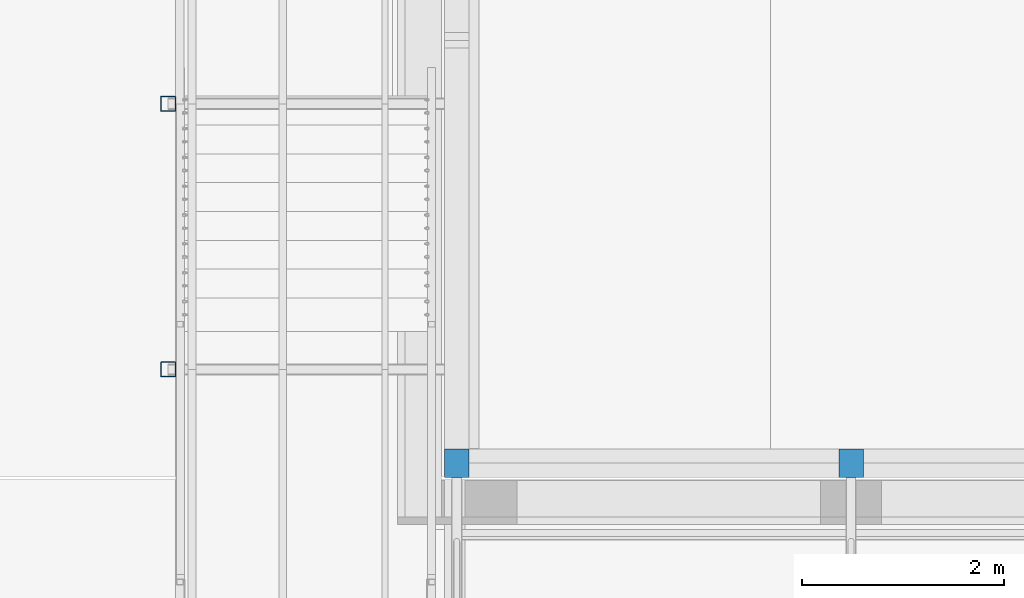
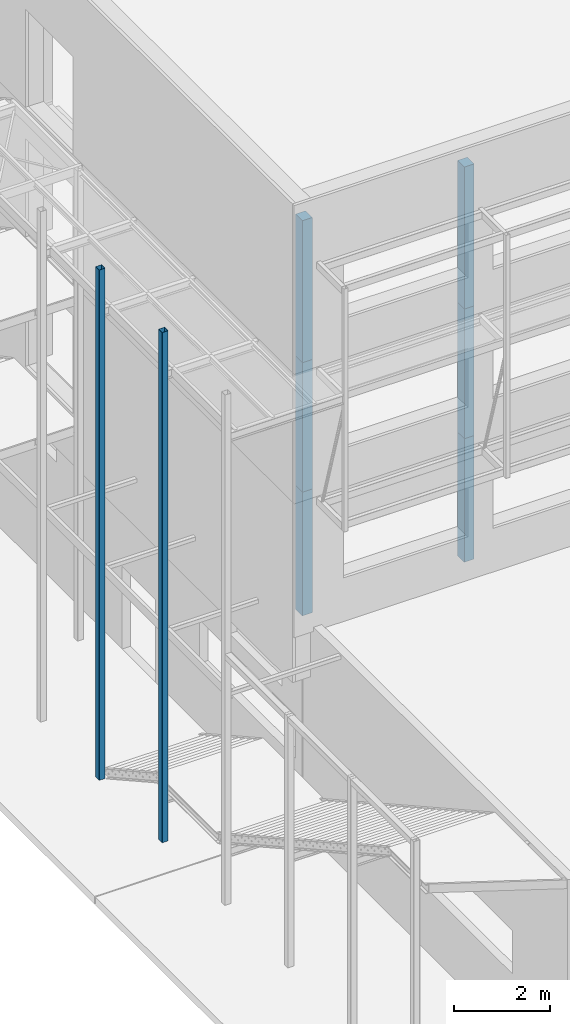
# One storey, part 2 of 78: 8 columns, 8 elements without a shape of their own.
"""IFC2X3 building model written with IfcOpenShell, lengths in millimetres."""

from ifc_helpers import new_model, si_unit, frame, origin_with_axes, origin_2d_with_axis, place, context, subcontext, project, spatial, rectangle, hollow_rectangle, extrude, material, type_object, element, aggregate, save


model = new_model("IFC2X3")

# Units and contexts
model_context = context("Model", 3, precision=1e-05, world=origin_with_axes())
body_context = subcontext(model_context, "Body", "Model", "MODEL_VIEW")
ifc_project = project(units=[si_unit("LENGTHUNIT", "METRE", prefix="MILLI"), si_unit("AREAUNIT", "SQUARE_METRE"), si_unit("VOLUMEUNIT", "CUBIC_METRE"), si_unit("MASSUNIT", "GRAM", prefix="KILO"), si_unit("TIMEUNIT", "SECOND"), si_unit("PLANEANGLEUNIT", "RADIAN"), si_unit("SOLIDANGLEUNIT", "STERADIAN"), si_unit("THERMODYNAMICTEMPERATUREUNIT", "DEGREE_CELSIUS"), si_unit("LUMINOUSINTENSITYUNIT", "LUMEN")], contexts=[model_context])

# Site, building, storey
site_placement = place(None, origin_with_axes())
site = spatial("IfcSite", under=ifc_project, at=site_placement, Name="Site", CompositionType="ELEMENT")
building_placement = place(site_placement, origin_with_axes())
building = spatial("IfcBuilding", under=site, at=building_placement, Name="Undefined", CompositionType="ELEMENT")
storey_placement = place(building_placement, origin_with_axes())
storey = spatial("IfcBuildingStorey", under=building, at=storey_placement, Name="Undefined", CompositionType="ELEMENT", Elevation=0.0)

# Assembly, column
assembly_1_placement = place(storey_placement, origin_with_axes())
assembly_1 = element("IfcElementAssembly", 1, at=assembly_1_placement, inside=storey, Name="POUTRE", AssemblyPlace="NOTDEFINED", PredefinedType="NOTDEFINED")
ifc_material_1 = material(Name="TIMBER/CHENE")
column_type_1 = type_object("IfcColumnType", Name="240*280", PredefinedType="NOTDEFINED")
column_1_placement = place(assembly_1_placement, frame((-30483.431930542, -6955.00101089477, 159850.03746582), z_axis=(0.0, 0.0, 1.0), x_axis=(-1.0, 0.0, 0.0)))
column_1 = element("IfcColumn", 2, at=column_1_placement, type_object=column_type_1, material=ifc_material_1, Name="POUTRE", ObjectType="240*280", context=body_context, shape_type="SweptSolid", body=[
    extrude(rectangle(XDim=280.0, YDim=240.0, at=origin_2d_with_axis()), frame((0.0, 0.0, 3620.01389648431), z_axis=(0.0, 0.0, -1.0), x_axis=(0.0, 1.0, 0.0)), (0.0, 0.0, 1.0), 3620.01),
])
aggregate(assembly_1, [column_1])

assembly_2_placement = place(storey_placement, origin_with_axes())
assembly_2 = element("IfcElementAssembly", 3, at=assembly_2_placement, inside=storey, Name="POUTRE", AssemblyPlace="NOTDEFINED", PredefinedType="NOTDEFINED")
column_2_placement = place(assembly_2_placement, frame((-26583.4323120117, -6955.00101089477, 159850.03746582), z_axis=(0.0, 0.0, 1.0), x_axis=(-1.0, 0.0, 0.0)))
column_2 = element("IfcColumn", 4, at=column_2_placement, type_object=column_type_1, material=ifc_material_1, Name="POUTRE", ObjectType="240*280", context=body_context, shape_type="SweptSolid", body=[
    extrude(rectangle(XDim=280.0, YDim=240.0, at=origin_2d_with_axis()), frame((0.0, 0.0, 3620.01389648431), z_axis=(0.0, 0.0, -1.0), x_axis=(0.0, 1.0, 0.0)), (0.0, 0.0, 1.0), 3620.01),
])
aggregate(assembly_2, [column_2])

assembly_3_placement = place(storey_placement, origin_with_axes())
assembly_3 = element("IfcElementAssembly", 5, at=assembly_3_placement, inside=storey, Name="POUTRE", AssemblyPlace="NOTDEFINED", PredefinedType="NOTDEFINED")
column_3_placement = place(assembly_3_placement, frame((-30483.431930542, -6955.00101089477, 156550.033569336), z_axis=(0.0, 0.0, 1.0), x_axis=(-1.0, 0.0, 0.0)))
column_3 = element("IfcColumn", 6, at=column_3_placement, type_object=column_type_1, material=ifc_material_1, Name="POUTRE", ObjectType="240*280", context=body_context, shape_type="SweptSolid", body=[
    extrude(rectangle(XDim=280.0, YDim=240.0, at=origin_2d_with_axis()), frame((0.0, 0.0, 3300.0038964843), z_axis=(0.0, 0.0, -1.0), x_axis=(0.0, 1.0, 0.0)), (0.0, 0.0, 1.0), 3300.0),
])
aggregate(assembly_3, [column_3])

assembly_4_placement = place(storey_placement, origin_with_axes())
assembly_4 = element("IfcElementAssembly", 7, at=assembly_4_placement, inside=storey, Name="POUTRE", AssemblyPlace="NOTDEFINED", PredefinedType="NOTDEFINED")
column_4_placement = place(assembly_4_placement, frame((-26583.4323120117, -6955.00101089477, 156550.033569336), z_axis=(0.0, 0.0, 1.0), x_axis=(-1.0, 0.0, 0.0)))
column_4 = element("IfcColumn", 8, at=column_4_placement, type_object=column_type_1, material=ifc_material_1, Name="POUTRE", ObjectType="240*280", context=body_context, shape_type="SweptSolid", body=[
    extrude(rectangle(XDim=280.0, YDim=240.0, at=origin_2d_with_axis()), frame((0.0, 0.0, 3300.0038964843), z_axis=(0.0, 0.0, -1.0), x_axis=(0.0, 1.0, 0.0)), (0.0, 0.0, 1.0), 3300.0),
])
aggregate(assembly_4, [column_4])

assembly_5_placement = place(storey_placement, origin_with_axes())
assembly_5 = element("IfcElementAssembly", 9, at=assembly_5_placement, inside=storey, Name="POUTRE", AssemblyPlace="NOTDEFINED", PredefinedType="NOTDEFINED")
column_5_placement = place(assembly_5_placement, frame((-30483.431930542, -6955.00101089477, 153400.039672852), z_axis=(0.0, 0.0, 1.0), x_axis=(-1.0, 0.0, 0.0)))
column_5 = element("IfcColumn", 10, at=column_5_placement, type_object=column_type_1, material=ifc_material_1, Name="POUTRE", ObjectType="240*280", context=body_context, shape_type="SweptSolid", body=[
    extrude(rectangle(XDim=280.0, YDim=240.0, at=origin_2d_with_axis()), frame((0.0, 0.0, 3149.99389648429), z_axis=(0.0, 0.0, -1.0), x_axis=(0.0, 1.0, 0.0)), (0.0, 0.0, 1.0), 3149.99),
])
aggregate(assembly_5, [column_5])

assembly_6_placement = place(storey_placement, origin_with_axes())
assembly_6 = element("IfcElementAssembly", 11, at=assembly_6_placement, inside=storey, Name="POUTRE", AssemblyPlace="NOTDEFINED", PredefinedType="NOTDEFINED")
column_6_placement = place(assembly_6_placement, frame((-26583.4323120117, -6955.00101089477, 153400.039672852), z_axis=(0.0, 0.0, 1.0), x_axis=(-1.0, 0.0, 0.0)))
column_6 = element("IfcColumn", 12, at=column_6_placement, type_object=column_type_1, material=ifc_material_1, Name="POUTRE", ObjectType="240*280", context=body_context, shape_type="SweptSolid", body=[
    extrude(rectangle(XDim=280.0, YDim=240.0, at=origin_2d_with_axis()), frame((0.0, 0.0, 3149.99389648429), z_axis=(0.0, 0.0, -1.0), x_axis=(0.0, 1.0, 0.0)), (0.0, 0.0, 1.0), 3149.99),
])
aggregate(assembly_6, [column_6])

assembly_7_placement = place(storey_placement, origin_with_axes())
assembly_7 = element("IfcElementAssembly", 13, at=assembly_7_placement, inside=storey, Name="POTEAU", AssemblyPlace="NOTDEFINED", PredefinedType="RIGID_FRAME")
ifc_material_2 = material(Name="STEEL/S275JR")
column_type_2 = type_object("IfcColumnType", Name="TUBE-C-150*150*5", PredefinedType="NOTDEFINED")
column_7_placement = place(assembly_7_placement, frame((-33338.43, -6028.0, 148000.04), z_axis=(0.0, 0.0, 1.0), x_axis=(0.0, 1.0, 0.0)))
column_7 = element("IfcColumn", 14, at=column_7_placement, type_object=column_type_2, material=ifc_material_2, Name="POTEAU", ObjectType="TUBE-C-150*150*5", context=body_context, shape_type="SweptSolid", body=[
    extrude(hollow_rectangle(XDim=150.0, YDim=150.0, WallThickness=5.0, InnerFilletRadius=5.0, OuterFilletRadius=10.0, at=origin_2d_with_axis()), frame((0.0, 0.0, 13000.0), z_axis=(0.0, 0.0, -1.0), x_axis=(0.0, 1.0, 0.0)), (0.0, 0.0, 1.0), 13000.0),
])
aggregate(assembly_7, [column_7])

assembly_8_placement = place(storey_placement, origin_with_axes())
assembly_8 = element("IfcElementAssembly", 15, at=assembly_8_placement, inside=storey, Name="POTEAU", AssemblyPlace="NOTDEFINED", PredefinedType="RIGID_FRAME")
column_8_placement = place(assembly_8_placement, frame((-33338.43, -3402.0, 148000.04), z_axis=(0.0, 0.0, 1.0), x_axis=(0.0, 1.0, 0.0)))
column_8 = element("IfcColumn", 16, at=column_8_placement, type_object=column_type_2, material=ifc_material_2, Name="POTEAU", ObjectType="TUBE-C-150*150*5", context=body_context, shape_type="SweptSolid", body=[
    extrude(hollow_rectangle(XDim=150.0, YDim=150.0, WallThickness=5.0, InnerFilletRadius=5.0, OuterFilletRadius=10.0, at=origin_2d_with_axis()), frame((0.0, 0.0, 13000.0), z_axis=(0.0, 0.0, -1.0), x_axis=(0.0, 1.0, 0.0)), (0.0, 0.0, 1.0), 13000.0),
])
aggregate(assembly_8, [column_8])

save(model, "model.ifc")
